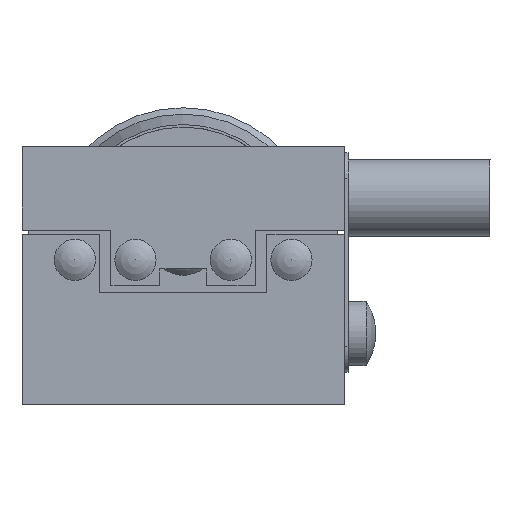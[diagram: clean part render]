
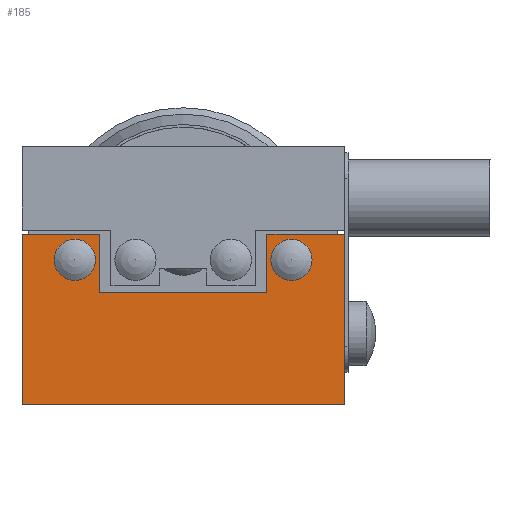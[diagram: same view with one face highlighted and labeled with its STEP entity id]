
A CAD part, left-side view. The second image highlights one B-rep face of the part: STEP entity #185.
In plain terms, the highlighted planar face has unit normal (-1, 0, 0).
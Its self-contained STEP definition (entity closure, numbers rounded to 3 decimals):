
#185 = ADVANCED_FACE( '', ( #480, #481, #482 ), #483, .T. );
#480 = FACE_OUTER_BOUND( '', #993, .T. );
#481 = FACE_BOUND( '', #994, .T. );
#482 = FACE_BOUND( '', #995, .T. );
#483 = PLANE( '', #996 );
#993 = EDGE_LOOP( '', ( #1514, #1515, #1516, #1517, #1518, #1519, #1520, #1521 ) );
#994 = EDGE_LOOP( '', ( #1522 ) );
#995 = EDGE_LOOP( '', ( #1523 ) );
#996 = AXIS2_PLACEMENT_3D( '', #1524, #1525, #1526 );
#1514 = ORIENTED_EDGE( '', *, *, #2467, .T. );
#1515 = ORIENTED_EDGE( '', *, *, #2468, .T. );
#1516 = ORIENTED_EDGE( '', *, *, #2469, .T. );
#1517 = ORIENTED_EDGE( '', *, *, #2470, .T. );
#1518 = ORIENTED_EDGE( '', *, *, #2471, .F. );
#1519 = ORIENTED_EDGE( '', *, *, #2472, .T. );
#1520 = ORIENTED_EDGE( '', *, *, #2473, .T. );
#1521 = ORIENTED_EDGE( '', *, *, #2474, .T. );
#1522 = ORIENTED_EDGE( '', *, *, #2475, .F. );
#1523 = ORIENTED_EDGE( '', *, *, #2476, .T. );
#1524 = CARTESIAN_POINT( '', ( -30., 0., 0. ) );
#1525 = DIRECTION( '', ( -1., 0., 0. ) );
#1526 = DIRECTION( '', ( 0., 1., 0. ) );
#2467 = EDGE_CURVE( '', #2849, #2850, #2851, .T. );
#2468 = EDGE_CURVE( '', #2850, #2852, #2853, .T. );
#2469 = EDGE_CURVE( '', #2852, #2854, #2855, .T. );
#2470 = EDGE_CURVE( '', #2854, #2856, #2857, .T. );
#2471 = EDGE_CURVE( '', #2858, #2856, #2859, .T. );
#2472 = EDGE_CURVE( '', #2858, #2860, #2861, .T. );
#2473 = EDGE_CURVE( '', #2860, #2862, #2863, .T. );
#2474 = EDGE_CURVE( '', #2862, #2849, #2864, .T. );
#2475 = EDGE_CURVE( '', #2865, #2865, #2866, .T. );
#2476 = EDGE_CURVE( '', #2867, #2867, #2868, .T. );
#2849 = VERTEX_POINT( '', #3402 );
#2850 = VERTEX_POINT( '', #3403 );
#2851 = LINE( '', #3404, #3405 );
#2852 = VERTEX_POINT( '', #3406 );
#2853 = LINE( '', #3407, #3408 );
#2854 = VERTEX_POINT( '', #3409 );
#2855 = LINE( '', #3410, #3411 );
#2856 = VERTEX_POINT( '', #3412 );
#2857 = LINE( '', #3413, #3414 );
#2858 = VERTEX_POINT( '', #3415 );
#2859 = LINE( '', #3416, #3417 );
#2860 = VERTEX_POINT( '', #3418 );
#2861 = LINE( '', #3419, #3420 );
#2862 = VERTEX_POINT( '', #3421 );
#2863 = LINE( '', #3422, #3423 );
#2864 = LINE( '', #3424, #3425 );
#2865 = VERTEX_POINT( '', #3426 );
#2866 = CIRCLE( '', #3427, 1.6 );
#2867 = VERTEX_POINT( '', #3428 );
#2868 = CIRCLE( '', #3429, 1.6 );
#3402 = CARTESIAN_POINT( '', ( -30., 6.5, 8.7 ) );
#3403 = CARTESIAN_POINT( '', ( -30., 6.5, 13.2 ) );
#3404 = CARTESIAN_POINT( '', ( -30., 6.5, 0. ) );
#3405 = VECTOR( '', #4039, 1000. );
#3406 = CARTESIAN_POINT( '', ( -30., 12.5, 13.2 ) );
#3407 = CARTESIAN_POINT( '', ( -30., 0., 13.2 ) );
#3408 = VECTOR( '', #4040, 1000. );
#3409 = CARTESIAN_POINT( '', ( -30., 12.5, 0. ) );
#3410 = CARTESIAN_POINT( '', ( -30., 12.5, 0. ) );
#3411 = VECTOR( '', #4041, 1000. );
#3412 = CARTESIAN_POINT( '', ( -30., -12.5, 0. ) );
#3413 = CARTESIAN_POINT( '', ( -30., 0., 0. ) );
#3414 = VECTOR( '', #4042, 1000. );
#3415 = CARTESIAN_POINT( '', ( -30., -12.5, 13.2 ) );
#3416 = CARTESIAN_POINT( '', ( -30., -12.5, 0. ) );
#3417 = VECTOR( '', #4043, 1000. );
#3418 = CARTESIAN_POINT( '', ( -30., -6.5, 13.2 ) );
#3419 = CARTESIAN_POINT( '', ( -30., 0., 13.2 ) );
#3420 = VECTOR( '', #4044, 1000. );
#3421 = CARTESIAN_POINT( '', ( -30., -6.5, 8.7 ) );
#3422 = CARTESIAN_POINT( '', ( -30., -6.5, 0. ) );
#3423 = VECTOR( '', #4045, 1000. );
#3424 = CARTESIAN_POINT( '', ( -30., 0., 8.7 ) );
#3425 = VECTOR( '', #4046, 1000. );
#3426 = CARTESIAN_POINT( '', ( -30., 8.4, 12.8 ) );
#3427 = AXIS2_PLACEMENT_3D( '', #4047, #4048, #4049 );
#3428 = CARTESIAN_POINT( '', ( -30., -8.4, 12.8 ) );
#3429 = AXIS2_PLACEMENT_3D( '', #4050, #4051, #4052 );
#4039 = DIRECTION( '', ( 0., 0., 1. ) );
#4040 = DIRECTION( '', ( 0., 1., 0. ) );
#4041 = DIRECTION( '', ( 0., 0., -1. ) );
#4042 = DIRECTION( '', ( 0., -1., 0. ) );
#4043 = DIRECTION( '', ( 0., 0., -1. ) );
#4044 = DIRECTION( '', ( 0., 1., 0. ) );
#4045 = DIRECTION( '', ( 0., 0., -1. ) );
#4046 = DIRECTION( '', ( 0., 1., 0. ) );
#4047 = CARTESIAN_POINT( '', ( -30., 8.4, 11.2 ) );
#4048 = DIRECTION( '', ( -1., 0., 0. ) );
#4049 = DIRECTION( '', ( 0., 0., 1. ) );
#4050 = CARTESIAN_POINT( '', ( -30., -8.4, 11.2 ) );
#4051 = DIRECTION( '', ( 1., 0., 0. ) );
#4052 = DIRECTION( '', ( 0., 0., 1. ) );
